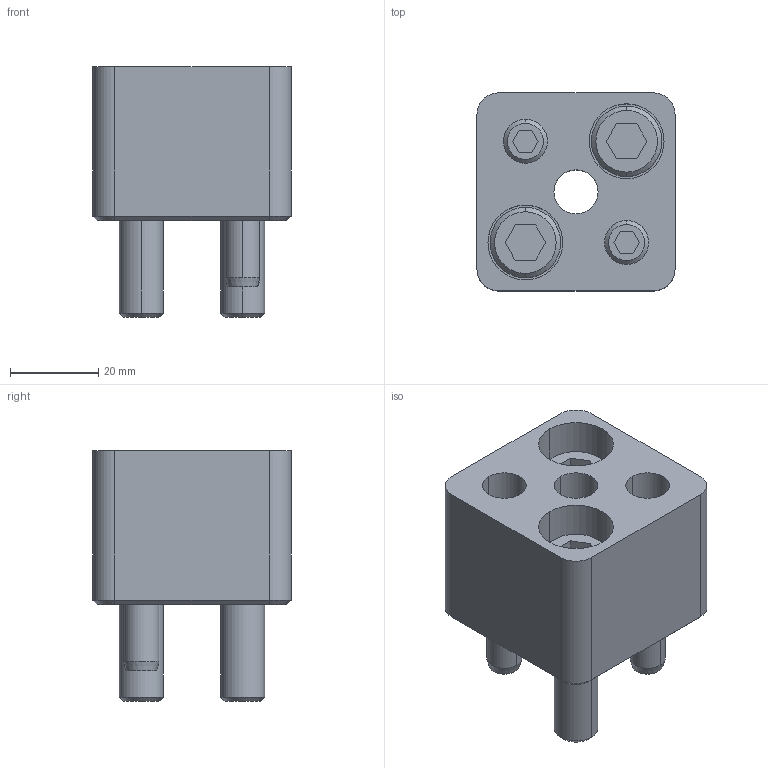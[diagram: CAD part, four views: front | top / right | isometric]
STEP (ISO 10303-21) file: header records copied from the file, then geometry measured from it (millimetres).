
FILE_DESCRIPTION(/* description */ (''),/* implementation_level */ '2;1');
FILE_NAME(/* name */ '3d_hasar10_04022_r00.stp',/* time_stamp */ '2011-01-10T14:14:56+09:00',/* author */ ('MISUMI'),/* organization */ (''),/* preprocessor_version */ 'ST-DEVELOPER v11',/* originating_system */ 'UGS - NX 5.0',/* authorisation */ '');
FILE_SCHEMA (('CONFIG_CONTROL_DESIGN'));
Length unit declared in the file: millimetre
Products named in the file (1): 3d_hasar10_04022_r00
Bounding box: 45 x 45 x 57 mm (x, y, z)
Volume: 64113.2 mm3; surface area: 22962.7 mm2
Topology: 7 solids, 7 shells, 143 faces, 310 edges, 196 vertices
Faces by surface type: plane 63, cylinder 50, cone 30
Entity records: 4026 total; most frequent: DIRECTION 718, CARTESIAN_POINT 704, ORIENTED_EDGE 620, EDGE_CURVE 310, AXIS2_PLACEMENT_3D 274, VERTEX_POINT 196, LINE 170, VECTOR 170
